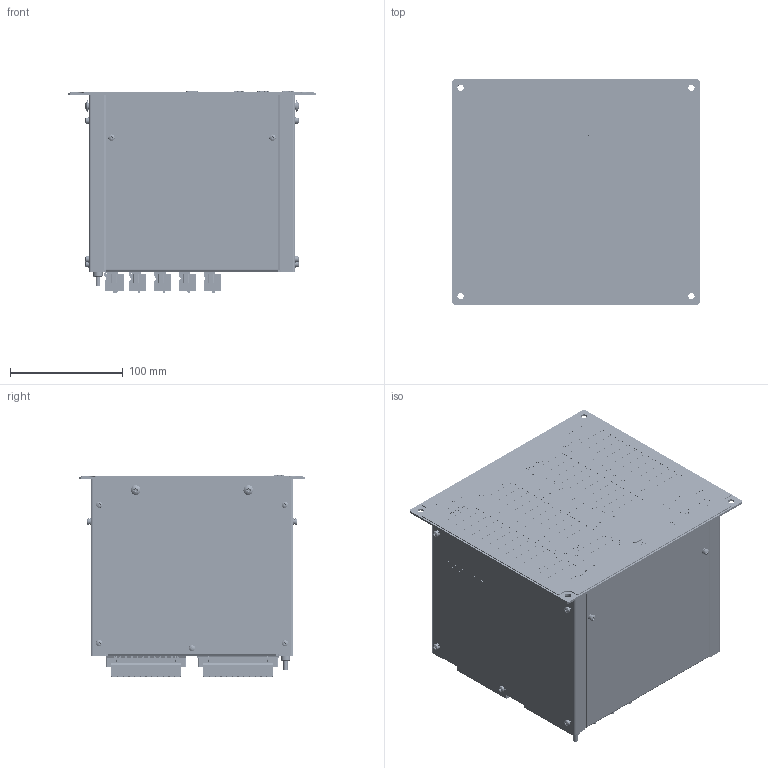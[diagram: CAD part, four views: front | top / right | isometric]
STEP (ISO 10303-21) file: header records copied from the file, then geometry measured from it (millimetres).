
FILE_DESCRIPTION(('STEP AP214'), '1');
FILE_NAME('ﾊﾈﾒ-ﾑ-ﾀ1-00-23-11-10', '', ('UNSPECIFIED'), ('UNSPECIFIED'), 'C3D Converter', 'C3D Toolkit', '');
FILE_SCHEMA(('AUTOMOTIVE_DESIGN { 1 0 10303 214 3 1 1}'));
Length unit declared in the file: millimetre
Products named in the file (56): ТРБН.421452.003; ТРБН.741128.001; ТРБН.745222.001; ТРБН.301732.001; ТРБН.745422.001; ТРБН.301261.003-02; ТРБН.745512.003-02; ТРБН.754312.003; ТРБН.754342.006; 2EDGRHM-5.08-24P-14-00A(H); 2EDGRM-5; ТРБН.434416.041; ТРБН.434416.041-01; ТРБН.434416.041-02; ТРБН.434416.044; ТРБН.434416.044-01; ТРБН.434416.044-02; ТРБН.434416.044-03; ТРБН.434416.044-04; ТРБН.434416.044-05; ТРБН.434416.044-06; ТРБН.434416.044-07
Assembly tree (102 placements, depth 3):
  ТРБН.421452.003
    (unnamed)
      ТРБН.741128.001
      ТРБН.745222.001  x2
    ТРБН.301732.001  x2
      ТРБН.745422.001
      (unnamed)
      (unnamed)
    ТРБН.301261.003-02
      ТРБН.745512.003-02
      (unnamed)  x2
      (unnamed)
    (unnamed)  x10
    (unnamed)  x4
    (unnamed)  x8
    (unnamed)  x5
    (unnamed)
    (unnamed)  x10
    (unnamed)  x3
    (unnamed)
    (unnamed)  x4
    (unnamed)  x3
    (unnamed)
    (unnamed)
    (unnamed)
    ТРБН.754312.003
    ТРБН.754342.006
    (unnamed)
    2EDGRHM-5.08-24P-14-00A(H)
    2EDGRM-5  x2
    2EDGRM-5
    2EDGRM-5  x2
    2EDGRM-5  x2
    2EDGRM-5  x2
    (unnamed)
    ТРБН.434416.041
      (unnamed)
    ТРБН.434416.041-01
      (unnamed)
    ТРБН.434416.041-02
      (unnamed)
    ТРБН.434416.044
      (unnamed)
    ТРБН.434416.044-01
      (unnamed)
    ТРБН.434416.044-02
      (unnamed)
    ТРБН.434416.044-03
      (unnamed)
    ТРБН.434416.044-04
      (unnamed)
    ТРБН.434416.044-05
      (unnamed)
    ТРБН.434416.044-06
      (unnamed)
    ТРБН.434416.044-07
      (unnamed)
Bounding box: 220 x 200 x 180.2 mm (x, y, z)
Volume: 491835.8 mm3; surface area: 638454.5 mm2
Topology: 316 solids, 661 shells, 46919 faces, 129404 edges, 85201 vertices
Faces by surface type: plane 26340, extrusion 10632, cylinder 8635, bspline 600, cone 551, torus 142, sphere 19
Full cylindrical faces by diameter (mm): 0.405 x8, 0.482 x8, 0.804 x1, 1.371 x1, 1.6 x22, 1.771 x1, 1.82 x22, 2.3 x18, 2.459 x6, 2.5 x22, 3 x14, 3.2 x22, 3.242 x1, 3.3 x108, 3.4 x4, 3.5 x69, 3.85 x22, 4 x114, 4.2 x6, 4.22 x6, 4.5 x5, 5 x6, 5.6 x20, 5.7 x4, 6 x14, 6.35 x6, 6.8 x1, 7.948 x1, 8 x1, 8.5 x1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
Entity records: 1674150 total; most frequent: CARTESIAN_POINT 331664, ORIENTED_EDGE 227346, DIRECTION 174678, EDGE_CURVE 113673, VECTOR 84732, VERTEX_POINT 75552, LINE 74100, AXIS2_PLACEMENT_3D 44973
